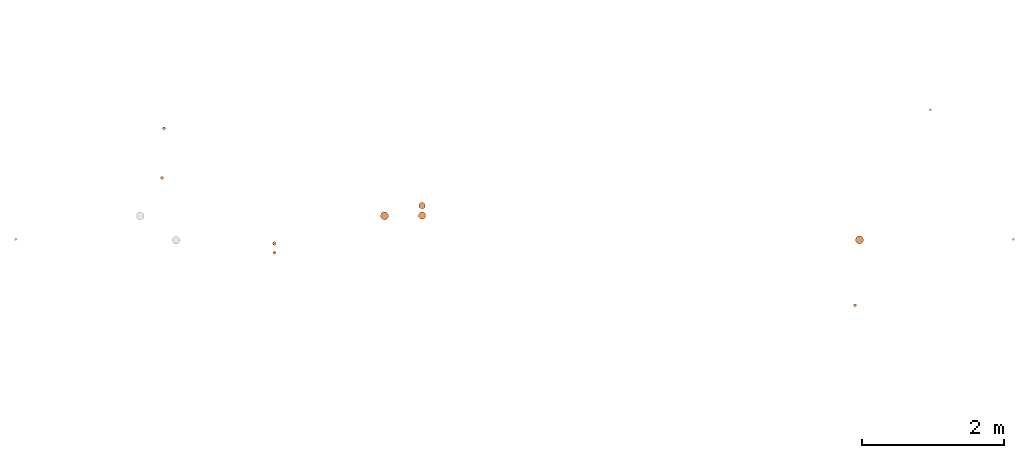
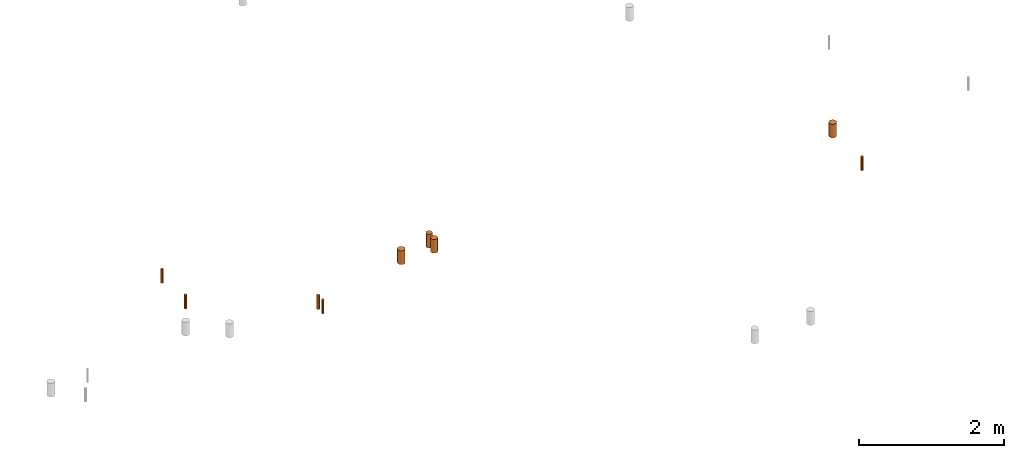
# One storey, part 14 of 16: 9 proxies.
"""IFC2X3 building model written with IfcOpenShell, lengths in centimetres."""

from ifc_helpers import new_model, entity, si_unit, converted_unit, derived_unit, direction, frame, origin, origin_2d_with_axis, place, context, subcontext, project, spatial, circle, extrude, source, transform, mapped, material, type_object, type_shapes, element, save


model = new_model("IFC2X3")

# Units and contexts
model_context = context("Model", 3, precision=0.001, world=origin(), true_north=direction((6.12303176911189e-17, 1.0)))
body_context = subcontext(model_context, "Body", "Model", "MODEL_VIEW")
ifc_project = project(units=[si_unit("LENGTHUNIT", "METRE", prefix="CENTI"), si_unit("AREAUNIT", "SQUARE_METRE"), si_unit("VOLUMEUNIT", "CUBIC_METRE"), converted_unit("PLANEANGLEUNIT", "DEGREE", entity("IfcRatioMeasure", 0.0174532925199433), si_unit("PLANEANGLEUNIT", "RADIAN"), dimensions=[0, 0, 0, 0, 0, 0, 0]), si_unit("MASSUNIT", "GRAM", prefix="KILO"), derived_unit("MASSDENSITYUNIT", [(si_unit("MASSUNIT", "GRAM", prefix="KILO"), 1), (si_unit("LENGTHUNIT", "METRE"), -3)]), si_unit("TIMEUNIT", "SECOND"), si_unit("FREQUENCYUNIT", "HERTZ"), si_unit("THERMODYNAMICTEMPERATUREUNIT", "DEGREE_CELSIUS"), derived_unit("THERMALTRANSMITTANCEUNIT", [(si_unit("MASSUNIT", "GRAM", prefix="KILO"), 1), (si_unit("THERMODYNAMICTEMPERATUREUNIT", "KELVIN"), -1), (si_unit("TIMEUNIT", "SECOND"), -3)]), derived_unit("VOLUMETRICFLOWRATEUNIT", [(si_unit("LENGTHUNIT", "METRE"), 3), (si_unit("TIMEUNIT", "SECOND"), -1)]), si_unit("ELECTRICCURRENTUNIT", "AMPERE"), si_unit("ELECTRICVOLTAGEUNIT", "VOLT"), si_unit("POWERUNIT", "WATT"), si_unit("FORCEUNIT", "NEWTON"), si_unit("ILLUMINANCEUNIT", "LUX"), si_unit("LUMINOUSFLUXUNIT", "LUMEN"), si_unit("LUMINOUSINTENSITYUNIT", "CANDELA"), derived_unit("USERDEFINED", [(si_unit("MASSUNIT", "GRAM", prefix="KILO"), -1), (si_unit("LENGTHUNIT", "METRE"), -2), (si_unit("TIMEUNIT", "SECOND"), 3), (si_unit("LUMINOUSFLUXUNIT", "LUMEN"), 1)]), derived_unit("LINEARVELOCITYUNIT", [(si_unit("LENGTHUNIT", "METRE"), 1), (si_unit("TIMEUNIT", "SECOND"), -1)]), si_unit("PRESSUREUNIT", "PASCAL"), derived_unit("USERDEFINED", [(si_unit("LENGTHUNIT", "METRE"), -2), (si_unit("MASSUNIT", "GRAM", prefix="KILO"), 1), (si_unit("TIMEUNIT", "SECOND"), -2)])], contexts=[model_context])

# Site, building, storey
site_placement = place(None, origin())
site = spatial("IfcSite", under=ifc_project, at=site_placement, Name="Default", CompositionType="ELEMENT")
building_placement = place(site_placement, origin())
building = spatial("IfcBuilding", under=site, at=building_placement, Name="CAGE 03", CompositionType="ELEMENT")
storey_placement = place(building_placement, frame((0.0, 0.0, 65.0)))
storey = spatial("IfcBuildingStorey", under=building, at=storey_placement, Name="Ac RDC", CompositionType="ELEMENT", Elevation=64.9999999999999)

# Proxies
ifc_material = material(Name="BBGO_Résa")
building_element_proxy_type_1 = type_object("IfcBuildingElementProxyType", Name="Ø40", PredefinedType="NOTDEFINED", material=ifc_material)
shared_shape_1 = source(origin(), body_context, "Body", "SweptSolid", [
    extrude(circle(Radius=2.0, at=origin_2d_with_axis()), frame((9641.72479133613, 4623.4124134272, 317.0)), (0.0, 0.0, 1.0), 22.9999999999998),
])
type_shapes(building_element_proxy_type_1, [shared_shape_1])
proxy_1_placement = place(storey_placement, frame((0.0, 0.0, -65.0)))
element("IfcBuildingElementProxy", 1, at=proxy_1_placement, inside=storey, type_object=building_element_proxy_type_1, material=ifc_material, Name="BBGO-Résa circ dalle:Ø40", ObjectType="Ø40", context=body_context, shape_type="MappedRepresentation", body=[
    mapped(shared_shape_1, transform((0.0, 0.0, 0.0), scale=1.0)),
])
building_element_proxy_type_2 = type_object("IfcBuildingElementProxyType", Name="Ø40", PredefinedType="NOTDEFINED", material=ifc_material)
shared_shape_2 = source(origin(), body_context, "Body", "SweptSolid", [
    extrude(circle(Radius=2.0, at=origin_2d_with_axis()), frame((9638.8631640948, 4553.85540555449, 317.0)), (0.0, 0.0, 1.0), 22.9999999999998),
])
type_shapes(building_element_proxy_type_2, [shared_shape_2])
proxy_2_placement = place(storey_placement, frame((0.0, 0.0, -65.0)))
element("IfcBuildingElementProxy", 2, at=proxy_2_placement, inside=storey, type_object=building_element_proxy_type_2, material=ifc_material, Name="BBGO-Résa circ dalle:Ø40", ObjectType="Ø40", context=body_context, shape_type="MappedRepresentation", body=[
    mapped(shared_shape_2, transform((0.0, 0.0, 0.0), scale=1.0)),
])
building_element_proxy_type_3 = type_object("IfcBuildingElementProxyType", Name="Ø40", PredefinedType="NOTDEFINED", material=ifc_material)
shared_shape_3 = source(origin(), body_context, "Body", "SweptSolid", [
    extrude(circle(Radius=2.0, at=origin_2d_with_axis()), frame((10612.698822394, 4374.9189973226, 317.0)), (0.0, 0.0, 1.0), 22.9999999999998),
])
type_shapes(building_element_proxy_type_3, [shared_shape_3])
proxy_3_placement = place(storey_placement, frame((0.0, 0.0, -65.0)))
element("IfcBuildingElementProxy", 3, at=proxy_3_placement, inside=storey, type_object=building_element_proxy_type_3, material=ifc_material, Name="BBGO-Résa circ dalle:Ø40", ObjectType="Ø40", context=body_context, shape_type="MappedRepresentation", body=[
    mapped(shared_shape_3, transform((0.0, 0.0, 0.0), scale=1.0)),
])
building_element_proxy_type_4 = type_object("IfcBuildingElementProxyType", Name="Ø110", PredefinedType="NOTDEFINED", material=ifc_material)
shared_shape_4 = source(origin(), body_context, "Body", "SweptSolid", [
    extrude(circle(Radius=5.5, at=origin_2d_with_axis()), frame((9951.51198540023, 4500.43298935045, 317.0)), (0.0, 0.0, 1.0), 22.9999999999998),
])
type_shapes(building_element_proxy_type_4, [shared_shape_4])
proxy_4_placement = place(storey_placement, frame((0.0, 0.0, -65.0)))
element("IfcBuildingElementProxy", 4, at=proxy_4_placement, inside=storey, type_object=building_element_proxy_type_4, material=ifc_material, Name="BBGO-Résa circ dalle:Ø110", ObjectType="Ø110", context=body_context, shape_type="MappedRepresentation", body=[
    mapped(shared_shape_4, transform((0.0, 0.0, 0.0), scale=1.0)),
])
building_element_proxy_type_5 = type_object("IfcBuildingElementProxyType", Name="Ø90", PredefinedType="NOTDEFINED", material=ifc_material)
shared_shape_5 = source(origin(), body_context, "Body", "SweptSolid", [
    extrude(circle(Radius=4.5, at=origin_2d_with_axis()), frame((10004.3066082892, 4514.90367083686, 317.0)), (0.0, 0.0, 1.0), 22.9999999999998),
])
type_shapes(building_element_proxy_type_5, [shared_shape_5])
proxy_5_placement = place(storey_placement, frame((0.0, 0.0, -65.0)))
element("IfcBuildingElementProxy", 5, at=proxy_5_placement, inside=storey, type_object=building_element_proxy_type_5, material=ifc_material, Name="BBGO-Résa circ dalle:Ø90", ObjectType="Ø90", context=body_context, shape_type="MappedRepresentation", body=[
    mapped(shared_shape_5, transform((0.0, 0.0, 0.0), scale=1.0)),
])
building_element_proxy_type_6 = type_object("IfcBuildingElementProxyType", Name="Ø100", PredefinedType="NOTDEFINED", material=ifc_material)
shared_shape_6 = source(origin(), body_context, "Body", "SweptSolid", [
    extrude(circle(Radius=5.0, at=origin_2d_with_axis()), frame((10004.3066082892, 4500.9132592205, 317.0)), (0.0, 0.0, 1.0), 22.9999999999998),
])
type_shapes(building_element_proxy_type_6, [shared_shape_6])
proxy_6_placement = place(storey_placement, frame((0.0, 0.0, -65.0)))
element("IfcBuildingElementProxy", 6, at=proxy_6_placement, inside=storey, type_object=building_element_proxy_type_6, material=ifc_material, Name="BBGO-Résa circ dalle:Ø100", ObjectType="Ø100", context=body_context, shape_type="MappedRepresentation", body=[
    mapped(shared_shape_6, transform((0.0, 0.0, 0.0), scale=1.0)),
])
building_element_proxy_type_7 = type_object("IfcBuildingElementProxyType", Name="Ø50", PredefinedType="NOTDEFINED", material=ifc_material)
shared_shape_7 = source(origin(), body_context, "Body", "SweptSolid", [
    extrude(circle(Radius=2.5, at=origin_2d_with_axis()), frame((9796.91767422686, 4461.65360229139, 317.0)), (0.0, 0.0, 1.0), 22.9999999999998),
])
type_shapes(building_element_proxy_type_7, [shared_shape_7])
proxy_7_placement = place(storey_placement, frame((0.0, 0.0, -65.0)))
element("IfcBuildingElementProxy", 7, at=proxy_7_placement, inside=storey, type_object=building_element_proxy_type_7, material=ifc_material, Name="BBGO-Résa circ dalle:Ø50", ObjectType="Ø50", context=body_context, shape_type="MappedRepresentation", body=[
    mapped(shared_shape_7, transform((0.0, 0.0, 0.0), scale=1.0)),
])
building_element_proxy_type_8 = type_object("IfcBuildingElementProxyType", Name="Ø40", PredefinedType="NOTDEFINED", material=ifc_material)
shared_shape_8 = source(origin(), body_context, "Body", "SweptSolid", [
    extrude(circle(Radius=2.0, at=origin_2d_with_axis()), frame((9796.91767422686, 4448.90360229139, 317.0)), (0.0, 0.0, 1.0), 22.9999999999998),
])
type_shapes(building_element_proxy_type_8, [shared_shape_8])
proxy_8_placement = place(storey_placement, frame((0.0, 0.0, -65.0)))
element("IfcBuildingElementProxy", 8, at=proxy_8_placement, inside=storey, type_object=building_element_proxy_type_8, material=ifc_material, Name="BBGO-Résa circ dalle:Ø40", ObjectType="Ø40", context=body_context, shape_type="MappedRepresentation", body=[
    mapped(shared_shape_8, transform((0.0, 0.0, 0.0), scale=1.0)),
])
building_element_proxy_type_9 = type_object("IfcBuildingElementProxyType", Name="Ø110", PredefinedType="NOTDEFINED", material=ifc_material)
shared_shape_9 = source(origin(), body_context, "Body", "SweptSolid", [
    extrude(circle(Radius=5.5, at=origin_2d_with_axis()), frame((10619.03611476, 4466.659713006, 317.0)), (0.0, 0.0, 1.0), 22.9999999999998),
])
type_shapes(building_element_proxy_type_9, [shared_shape_9])
proxy_9_placement = place(storey_placement, frame((0.0, 0.0, -65.0)))
element("IfcBuildingElementProxy", 9, at=proxy_9_placement, inside=storey, type_object=building_element_proxy_type_9, material=ifc_material, Name="BBGO-Résa circ dalle:Ø110", ObjectType="Ø110", context=body_context, shape_type="MappedRepresentation", body=[
    mapped(shared_shape_9, transform((0.0, 0.0, 0.0), scale=1.0)),
])

save(model, "model.ifc")
